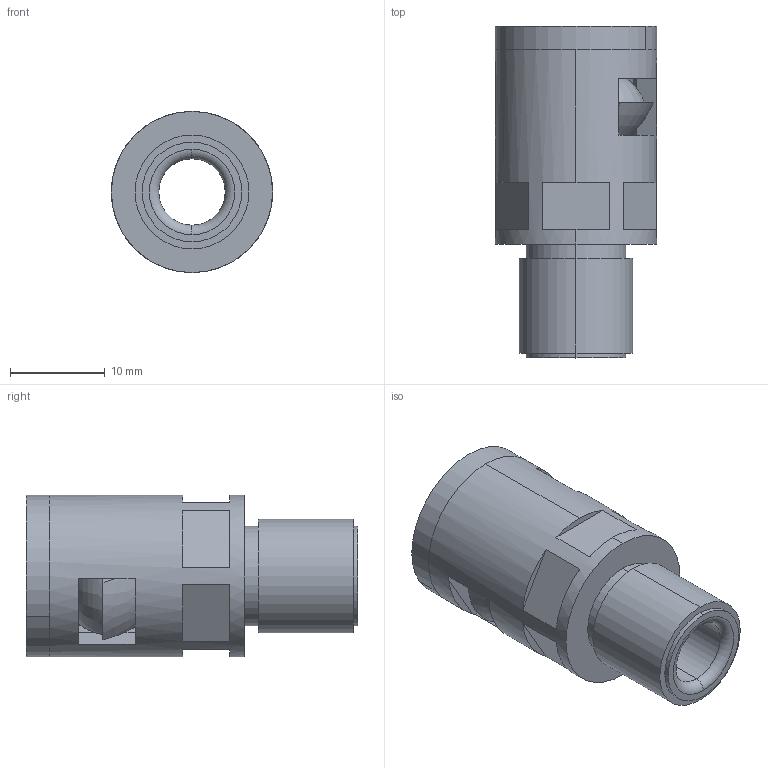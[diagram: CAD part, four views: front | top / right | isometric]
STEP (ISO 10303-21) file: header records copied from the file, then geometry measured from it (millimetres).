
FILE_DESCRIPTION (( 'STEP AP203' ), '1' );
FILE_NAME ('WQG-M12-AD10.0.STEP', '2012-06-04T07:00:02', ( '迾輿躂瑞' ), ( 'WwW.YlmF.CoM' ), 'SwSTEP 2.0', 'SolidWorks 2010', '' );
FILE_SCHEMA (( 'CONFIG_CONTROL_DESIGN' ));
Length unit declared in the file: millimetre
Products named in the file (3): WQG-M12 AD10.0-01; WQG-M12-AD10.0; NSK-AD10.0
Assembly tree (2 placements, depth 2):
  WQG-M12-AD10.0
    WQG-M12 AD10.0-01
    NSK-AD10.0
Bounding box: 17 x 35 x 17 mm (x, y, z)
Volume: 2667.5 mm3; surface area: 4441.2 mm2
Topology: 1 solids, 4 shells, 90 faces, 225 edges, 146 vertices
Faces by surface type: plane 54, cylinder 18, torus 10, cone 8
Entity records: 3131 total; most frequent: CARTESIAN_POINT 594, DIRECTION 504, ORIENTED_EDGE 446, EDGE_CURVE 225, AXIS2_PLACEMENT_3D 204, VERTEX_POINT 146, CIRCLE 108, EDGE_LOOP 106
